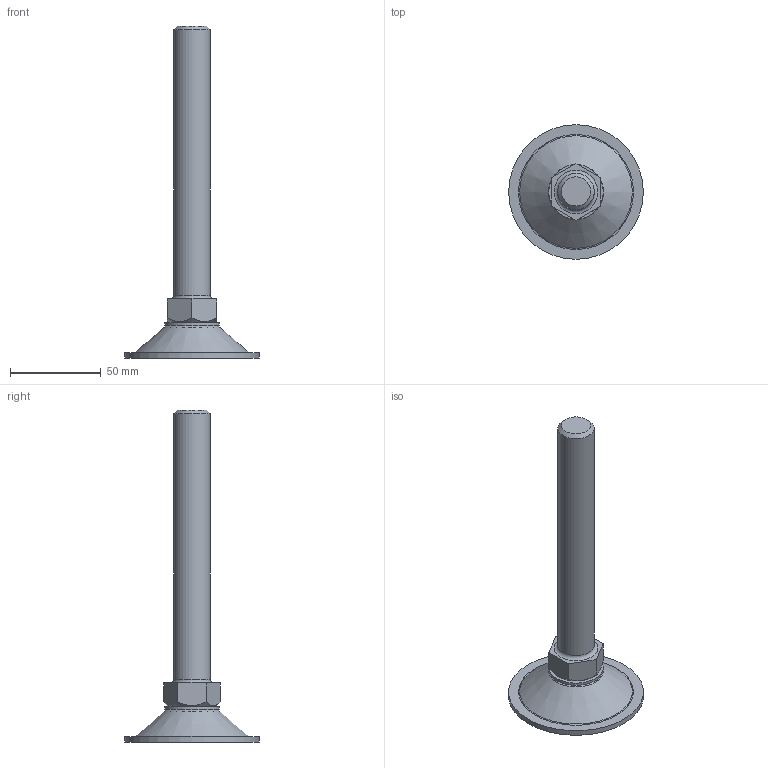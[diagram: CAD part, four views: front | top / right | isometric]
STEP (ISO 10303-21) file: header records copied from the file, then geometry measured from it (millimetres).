
FILE_DESCRIPTION(/* description */ (''),/* implementation_level */ '2;1');
FILE_NAME(/* name */ 'D:\조절자\PF\PF-M20-150L.stp',/* time_stamp */ '2016-03-14T14:54:43+09:00',/* author */ ('GS-DT-1-001'),/* organization */ (''),/* preprocessor_version */ 'ST-DEVELOPER v15.6',/* originating_system */ 'Autodesk Inventor LT ',/* authorisation */ '');
FILE_SCHEMA (('AUTOMOTIVE_DESIGN { 1 0 10303 214 3 1 1 }'));
Length unit declared in the file: millimetre
Products named in the file (1): PF-M20-150L
Bounding box: 74 x 74 x 182.5 mm (x, y, z)
Volume: 70648.3 mm3; surface area: 24247.5 mm2
Topology: 3 solids, 3 shells, 31 faces, 62 edges, 41 vertices
Faces by surface type: plane 16, cylinder 6, torus 5, cone 4
Full cylindrical faces by diameter (mm): 7.153 x1, 8.2 x1, 8.8 x1, 20 x1, 30 x1, 74 x1
Entity records: 706 total; most frequent: DIRECTION 122, CARTESIAN_POINT 120, ORIENTED_EDGE 82, AXIS2_PLACEMENT_3D 55, EDGE_LOOP 54, EDGE_CURVE 41, VERTEX_POINT 35, FACE_OUTER_BOUND 31
